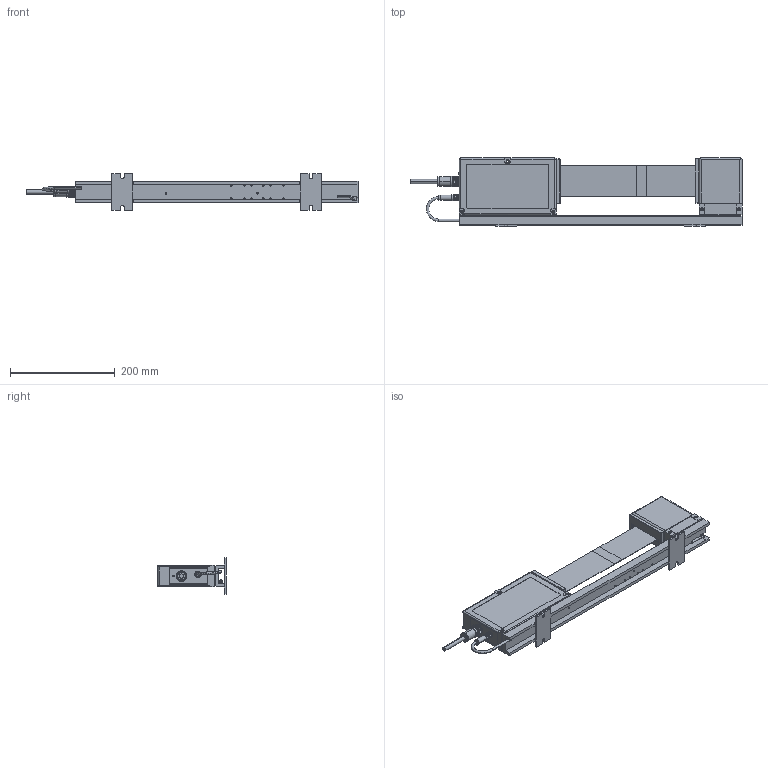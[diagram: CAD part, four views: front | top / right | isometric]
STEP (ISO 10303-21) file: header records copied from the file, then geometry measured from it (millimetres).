
FILE_DESCRIPTION(('Creo Elements/Direct Modeling STEP Export'),'2;1');
FILE_NAME('506S.stp','2015-03-05T16:30:17',(''),(''),'Creo Elements/Direct Modeling STEP processor for AP214 (Solid Model)','Creo Elements/Direct Modeling 18.1C 24-Feb-2013 (C) Parametric Technology GmbH','');
FILE_SCHEMA(('AUTOMOTIVE_DESIGN { 1 0 10303 214 1 1 1 1 }'));
Length unit declared in the file: millimetre
Products named in the file (9): 2; 3; 1; 6; 8; 7; 5; 4; LSM-506S
Assembly tree (8 placements, depth 2):
  LSM-506S
    4
    5
    7
    8
    6
    1
    3
    2
Bounding box: 633.88 x 130 x 70 mm (x, y, z)
Volume: 1429245.2 mm3; surface area: 250125.5 mm2
Topology: 8 solids, 8 shells, 1449 faces, 3422 edges, 2051 vertices
Faces by surface type: plane 604, cylinder 463, cone 318, torus 50, bspline 12, sphere 2
Entity records: 44553 total; most frequent: CARTESIAN_POINT 15299, ORIENTED_EDGE 6828, DIRECTION 4704, EDGE_CURVE 3414, VERTEX_POINT 2051, AXIS2_PLACEMENT_3D 1619, EDGE_LOOP 1565, VECTOR 1466
